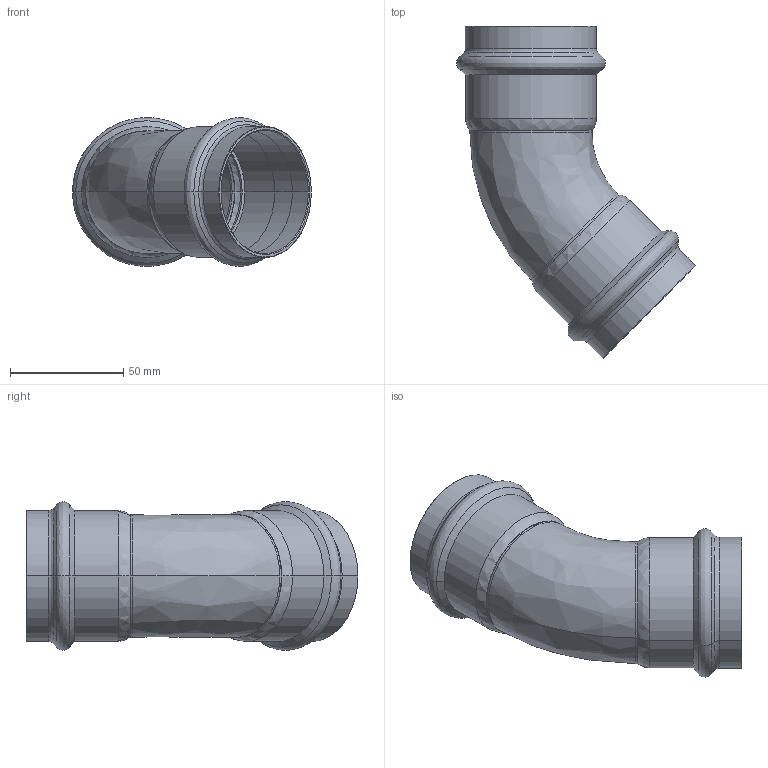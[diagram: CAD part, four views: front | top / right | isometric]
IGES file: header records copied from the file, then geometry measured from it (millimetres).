
Start section: Elysium IGES Interface
Global section: file name: C:\3d modellen sudo\C-Pr VP\SP8041V\8041VW54.igs; native system: CoCreate Modeling 17.00A  17-Jun-2010; preprocessor: CoCreate IGES_3D V2.2; author: Unknown; organization: Unknown; date: 20130129.143437; units: millimetre
Bounding box: 105.49 x 146.64 x 65.65 mm (x, y, z)
Volume: 53244.7 mm3; surface area: 53243.4 mm2
Topology: 1 solids, 1 shells, 90 faces, 180 edges, 96 vertices
Faces by surface type: bspline 90
